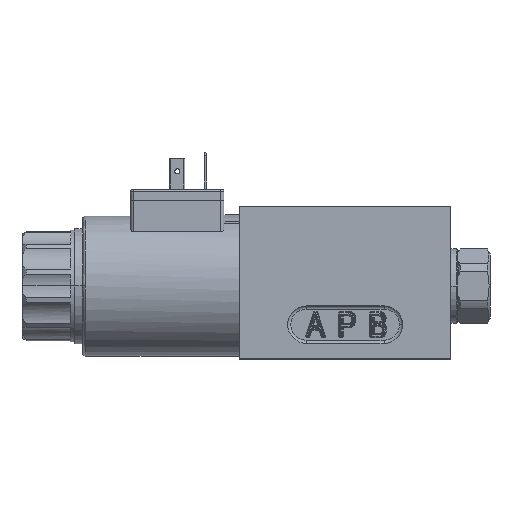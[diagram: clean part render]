
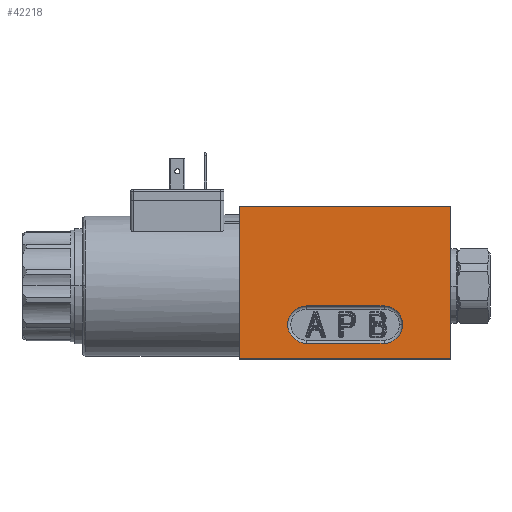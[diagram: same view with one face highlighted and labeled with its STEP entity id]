
A CAD part, top view. The second image highlights one B-rep face of the part: STEP entity #42218.
In plain terms, the highlighted planar face has unit normal (0, 0, 1).
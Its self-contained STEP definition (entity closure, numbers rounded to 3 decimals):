
#352 = AXIS2_PLACEMENT_3D ( 'NONE', #31422, #8572, #35268 ) ;
#1069 = CARTESIAN_POINT ( 'NONE',  ( 21.5, -7.446, 23. ) ) ;
#1075 = VERTEX_POINT ( 'NONE', #36801 ) ;
#2211 = PLANE ( 'NONE',  #49457 ) ;
#2749 = DIRECTION ( 'NONE',  ( 0., -1., 0. ) ) ;
#2984 = CARTESIAN_POINT ( 'NONE',  ( 68., -24.5, 23. ) ) ;
#4072 = VERTEX_POINT ( 'NONE', #21438 ) ;
#4386 = ORIENTED_EDGE ( 'NONE', *, *, #24558, .F. ) ;
#4431 = CARTESIAN_POINT ( 'NONE',  ( 68., 24.5, 23. ) ) ;
#5101 = LINE ( 'NONE', #2984, #34319 ) ;
#5186 = VERTEX_POINT ( 'NONE', #7669 ) ;
#6088 = EDGE_CURVE ( 'NONE', #7088, #15741, #44809, .T. ) ;
#6223 = DIRECTION ( 'NONE',  ( 0., 0., -1. ) ) ;
#7088 = VERTEX_POINT ( 'NONE', #4431 ) ;
#7669 = CARTESIAN_POINT ( 'NONE',  ( 0., 24.5, 23. ) ) ;
#8572 = DIRECTION ( 'NONE',  ( 0., 0., 1. ) ) ;
#8932 = CARTESIAN_POINT ( 'NONE',  ( 68., -24.5, 23. ) ) ;
#11154 = ORIENTED_EDGE ( 'NONE', *, *, #31295, .T. ) ;
#12450 = LINE ( 'NONE', #14573, #17814 ) ;
#12608 = VECTOR ( 'NONE', #2749, 1000. ) ;
#13056 = CARTESIAN_POINT ( 'NONE',  ( 68., 24.5, 23. ) ) ;
#13182 = CARTESIAN_POINT ( 'NONE',  ( 21.5, -7.446, 23. ) ) ;
#14510 = CARTESIAN_POINT ( 'NONE',  ( 46.5, -13.446, 23. ) ) ;
#14573 = CARTESIAN_POINT ( 'NONE',  ( 21.5, -19.446, 23. ) ) ;
#15266 = EDGE_CURVE ( 'NONE', #15741, #4072, #5101, .T. ) ;
#15519 = ORIENTED_EDGE ( 'NONE', *, *, #17916, .F. ) ;
#15612 = EDGE_LOOP ( 'NONE', ( #11154, #30727, #30962, #42984 ) ) ;
#15620 = CARTESIAN_POINT ( 'NONE',  ( 46.5, -13.446, 23. ) ) ;
#15741 = VERTEX_POINT ( 'NONE', #48800 ) ;
#16451 = EDGE_CURVE ( 'NONE', #7088, #5186, #42978, .T. ) ;
#16650 = VERTEX_POINT ( 'NONE', #33706 ) ;
#17814 = VECTOR ( 'NONE', #29765, 1000. ) ;
#17916 = EDGE_CURVE ( 'NONE', #1075, #21317, #12450, .T. ) ;
#18099 = ORIENTED_EDGE ( 'NONE', *, *, #42736, .F. ) ;
#18392 = DIRECTION ( 'NONE',  ( -1., 0., 0. ) ) ;
#19082 = EDGE_LOOP ( 'NONE', ( #15519, #4386, #18099, #23275, #23311 ) ) ;
#19460 = DIRECTION ( 'NONE',  ( -1., 0., 0. ) ) ;
#21167 = CIRCLE ( 'NONE', #352, 6. ) ;
#21317 = VERTEX_POINT ( 'NONE', #22749 ) ;
#21438 = CARTESIAN_POINT ( 'NONE',  ( 0., -24.5, 23. ) ) ;
#22747 = LINE ( 'NONE', #40764, #12608 ) ;
#22749 = CARTESIAN_POINT ( 'NONE',  ( 46.5, -19.446, 23. ) ) ;
#23275 = ORIENTED_EDGE ( 'NONE', *, *, #48308, .F. ) ;
#23311 = ORIENTED_EDGE ( 'NONE', *, *, #26171, .F. ) ;
#24558 = EDGE_CURVE ( 'NONE', #24609, #1075, #21167, .T. ) ;
#24609 = VERTEX_POINT ( 'NONE', #1069 ) ;
#24626 = CIRCLE ( 'NONE', #42434, 6. ) ;
#25719 = VECTOR ( 'NONE', #39470, 1000. ) ;
#26171 = EDGE_CURVE ( 'NONE', #21317, #16650, #39446, .T. ) ;
#26235 = FACE_OUTER_BOUND ( 'NONE', #15612, .T. ) ;
#26266 = LINE ( 'NONE', #13182, #36411 ) ;
#29066 = CARTESIAN_POINT ( 'NONE',  ( 68., -24.5, 23. ) ) ;
#29765 = DIRECTION ( 'NONE',  ( 1., 0., 0. ) ) ;
#30627 = CARTESIAN_POINT ( 'NONE',  ( 46.5, -7.446, 23. ) ) ;
#30727 = ORIENTED_EDGE ( 'NONE', *, *, #15266, .F. ) ;
#30962 = ORIENTED_EDGE ( 'NONE', *, *, #6088, .F. ) ;
#31295 = EDGE_CURVE ( 'NONE', #5186, #4072, #22747, .T. ) ;
#31422 = CARTESIAN_POINT ( 'NONE',  ( 21.5, -13.446, 23. ) ) ;
#32869 = VECTOR ( 'NONE', #47709, 1000. ) ;
#32925 = DIRECTION ( 'NONE',  ( -1., 0., 0. ) ) ;
#33706 = CARTESIAN_POINT ( 'NONE',  ( 52.5, -13.446, 23. ) ) ;
#34319 = VECTOR ( 'NONE', #40977, 1000. ) ;
#35268 = DIRECTION ( 'NONE',  ( 1., 0., 0. ) ) ;
#36031 = DIRECTION ( 'NONE',  ( -1., 0., 0. ) ) ;
#36411 = VECTOR ( 'NONE', #36031, 1000. ) ;
#36801 = CARTESIAN_POINT ( 'NONE',  ( 21.5, -19.446, 23. ) ) ;
#39446 = CIRCLE ( 'NONE', #46438, 6. ) ;
#39470 = DIRECTION ( 'NONE',  ( 0., -1., 0. ) ) ;
#40764 = CARTESIAN_POINT ( 'NONE',  ( 0., -24.5, 23. ) ) ;
#40977 = DIRECTION ( 'NONE',  ( -1., 0., 0. ) ) ;
#41222 = DIRECTION ( 'NONE',  ( 0., 0., 1. ) ) ;
#41534 = VERTEX_POINT ( 'NONE', #30627 ) ;
#42218 = ADVANCED_FACE ( 'NONE', ( #45309, #26235 ), #2211, .F. ) ;
#42289 = DIRECTION ( 'NONE',  ( 0., 0., 1. ) ) ;
#42434 = AXIS2_PLACEMENT_3D ( 'NONE', #15620, #42289, #19460 ) ;
#42736 = EDGE_CURVE ( 'NONE', #41534, #24609, #26266, .T. ) ;
#42978 = LINE ( 'NONE', #13056, #32869 ) ;
#42984 = ORIENTED_EDGE ( 'NONE', *, *, #16451, .T. ) ;
#44809 = LINE ( 'NONE', #8932, #25719 ) ;
#45309 = FACE_BOUND ( 'NONE', #19082, .T. ) ;
#46438 = AXIS2_PLACEMENT_3D ( 'NONE', #14510, #41222, #18392 ) ;
#47709 = DIRECTION ( 'NONE',  ( -1., 0., 0. ) ) ;
#48308 = EDGE_CURVE ( 'NONE', #16650, #41534, #24626, .T. ) ;
#48800 = CARTESIAN_POINT ( 'NONE',  ( 68., -24.5, 23. ) ) ;
#49457 = AXIS2_PLACEMENT_3D ( 'NONE', #29066, #6223, #32925 ) ;
